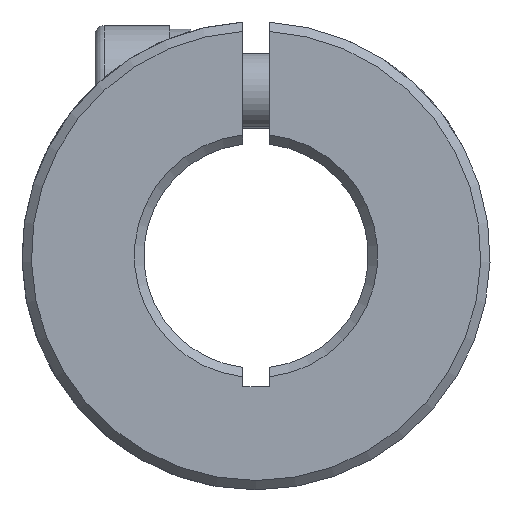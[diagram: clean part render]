
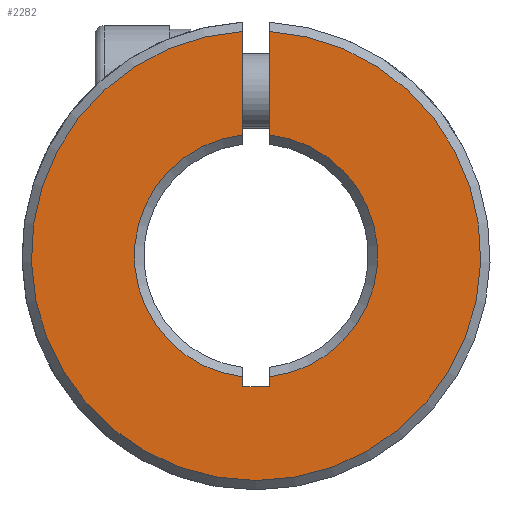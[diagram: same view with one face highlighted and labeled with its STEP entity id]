
A CAD part, front view. The second image highlights one B-rep face of the part: STEP entity #2282.
In plain terms, the highlighted planar face has unit normal (0, -1, 0).
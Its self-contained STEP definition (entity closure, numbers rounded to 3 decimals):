
#38 = LINE ( 'NONE', #843, #650 ) ;
#129 = AXIS2_PLACEMENT_3D ( 'NONE', #2730, #1445, #401 ) ;
#145 = CARTESIAN_POINT ( 'NONE',  ( 0.7, 0.25, -6.462 ) ) ;
#177 = CARTESIAN_POINT ( 'NONE',  ( 0., 0.25, 0. ) ) ;
#196 = PLANE ( 'NONE',  #129 ) ;
#229 = EDGE_CURVE ( 'NONE', #1154, #292, #2685, .T. ) ;
#292 = VERTEX_POINT ( 'NONE', #2320 ) ;
#310 = CARTESIAN_POINT ( 'NONE',  ( -0.7, 0.25, 6.462 ) ) ;
#355 = FACE_OUTER_BOUND ( 'NONE', #2416, .T. ) ;
#381 = LINE ( 'NONE', #2069, #2536 ) ;
#401 = DIRECTION ( 'NONE',  ( 0., 0., 1. ) ) ;
#467 = CARTESIAN_POINT ( 'NONE',  ( 0.7, 0.25, 11.98 ) ) ;
#478 = ORIENTED_EDGE ( 'NONE', *, *, #3109, .T. ) ;
#516 = VERTEX_POINT ( 'NONE', #2318 ) ;
#583 = ORIENTED_EDGE ( 'NONE', *, *, #606, .F. ) ;
#606 = EDGE_CURVE ( 'NONE', #292, #1781, #1096, .T. ) ;
#650 = VECTOR ( 'NONE', #816, 1000. ) ;
#691 = EDGE_CURVE ( 'NONE', #2233, #3243, #1878, .T. ) ;
#789 = VERTEX_POINT ( 'NONE', #310 ) ;
#816 = DIRECTION ( 'NONE',  ( 0., 0., 1. ) ) ;
#821 = LINE ( 'NONE', #2897, #1880 ) ;
#843 = CARTESIAN_POINT ( 'NONE',  ( 0.7, 0.25, -7. ) ) ;
#873 = DIRECTION ( 'NONE',  ( 0., -1., 0. ) ) ;
#980 = VERTEX_POINT ( 'NONE', #467 ) ;
#1010 = DIRECTION ( 'NONE',  ( 0., 0., 1. ) ) ;
#1012 = CARTESIAN_POINT ( 'NONE',  ( 0., 0.25, 0. ) ) ;
#1046 = AXIS2_PLACEMENT_3D ( 'NONE', #1012, #2356, #2071 ) ;
#1084 = EDGE_CURVE ( 'NONE', #2233, #980, #381, .T. ) ;
#1096 = LINE ( 'NONE', #2335, #1672 ) ;
#1122 = CARTESIAN_POINT ( 'NONE',  ( 0.7, 0.25, 6.462 ) ) ;
#1154 = VERTEX_POINT ( 'NONE', #1828 ) ;
#1302 = DIRECTION ( 'NONE',  ( 1., 0., 0. ) ) ;
#1368 = EDGE_CURVE ( 'NONE', #1154, #789, #3260, .T. ) ;
#1396 = ORIENTED_EDGE ( 'NONE', *, *, #229, .F. ) ;
#1445 = DIRECTION ( 'NONE',  ( 0., 1., 0. ) ) ;
#1474 = EDGE_CURVE ( 'NONE', #516, #789, #821, .T. ) ;
#1583 = CIRCLE ( 'NONE', #2583, 12. ) ;
#1672 = VECTOR ( 'NONE', #1302, 1000. ) ;
#1762 = CARTESIAN_POINT ( 'NONE',  ( 0.7, 0.25, -7. ) ) ;
#1767 = ORIENTED_EDGE ( 'NONE', *, *, #1368, .T. ) ;
#1781 = VERTEX_POINT ( 'NONE', #1762 ) ;
#1800 = DIRECTION ( 'NONE',  ( 0., 1., 0. ) ) ;
#1828 = CARTESIAN_POINT ( 'NONE',  ( -0.7, 0.25, -6.462 ) ) ;
#1845 = VECTOR ( 'NONE', #3285, 1000. ) ;
#1865 = DIRECTION ( 'NONE',  ( 0., 0., -1. ) ) ;
#1878 = CIRCLE ( 'NONE', #1046, 6.5 ) ;
#1880 = VECTOR ( 'NONE', #1865, 1000. ) ;
#2048 = CARTESIAN_POINT ( 'NONE',  ( 0., 0.25, 0. ) ) ;
#2069 = CARTESIAN_POINT ( 'NONE',  ( 0.7, 0.25, -7. ) ) ;
#2071 = DIRECTION ( 'NONE',  ( 0., 0., 1. ) ) ;
#2233 = VERTEX_POINT ( 'NONE', #1122 ) ;
#2282 = ADVANCED_FACE ( 'NONE', ( #355 ), #196, .F. ) ;
#2318 = CARTESIAN_POINT ( 'NONE',  ( -0.7, 0.25, 11.98 ) ) ;
#2320 = CARTESIAN_POINT ( 'NONE',  ( -0.7, 0.25, -7. ) ) ;
#2335 = CARTESIAN_POINT ( 'NONE',  ( 0.7, 0.25, -7. ) ) ;
#2356 = DIRECTION ( 'NONE',  ( 0., 1., 0. ) ) ;
#2416 = EDGE_LOOP ( 'NONE', ( #2464, #2465, #3068, #583, #1396, #1767, #2427, #478 ) ) ;
#2427 = ORIENTED_EDGE ( 'NONE', *, *, #1474, .F. ) ;
#2464 = ORIENTED_EDGE ( 'NONE', *, *, #1084, .F. ) ;
#2465 = ORIENTED_EDGE ( 'NONE', *, *, #691, .T. ) ;
#2536 = VECTOR ( 'NONE', #2601, 1000. ) ;
#2583 = AXIS2_PLACEMENT_3D ( 'NONE', #177, #873, #2984 ) ;
#2601 = DIRECTION ( 'NONE',  ( 0., 0., 1. ) ) ;
#2610 = EDGE_CURVE ( 'NONE', #1781, #3243, #38, .T. ) ;
#2685 = LINE ( 'NONE', #3061, #1845 ) ;
#2730 = CARTESIAN_POINT ( 'NONE',  ( 12.5, 0.25, -50. ) ) ;
#2897 = CARTESIAN_POINT ( 'NONE',  ( -0.7, 0.25, -7. ) ) ;
#2984 = DIRECTION ( 'NONE',  ( 0., 0., 1. ) ) ;
#3061 = CARTESIAN_POINT ( 'NONE',  ( -0.7, 0.25, -7. ) ) ;
#3068 = ORIENTED_EDGE ( 'NONE', *, *, #2610, .F. ) ;
#3109 = EDGE_CURVE ( 'NONE', #516, #980, #1583, .T. ) ;
#3243 = VERTEX_POINT ( 'NONE', #145 ) ;
#3260 = CIRCLE ( 'NONE', #3331, 6.5 ) ;
#3285 = DIRECTION ( 'NONE',  ( 0., 0., -1. ) ) ;
#3331 = AXIS2_PLACEMENT_3D ( 'NONE', #2048, #1800, #1010 ) ;
